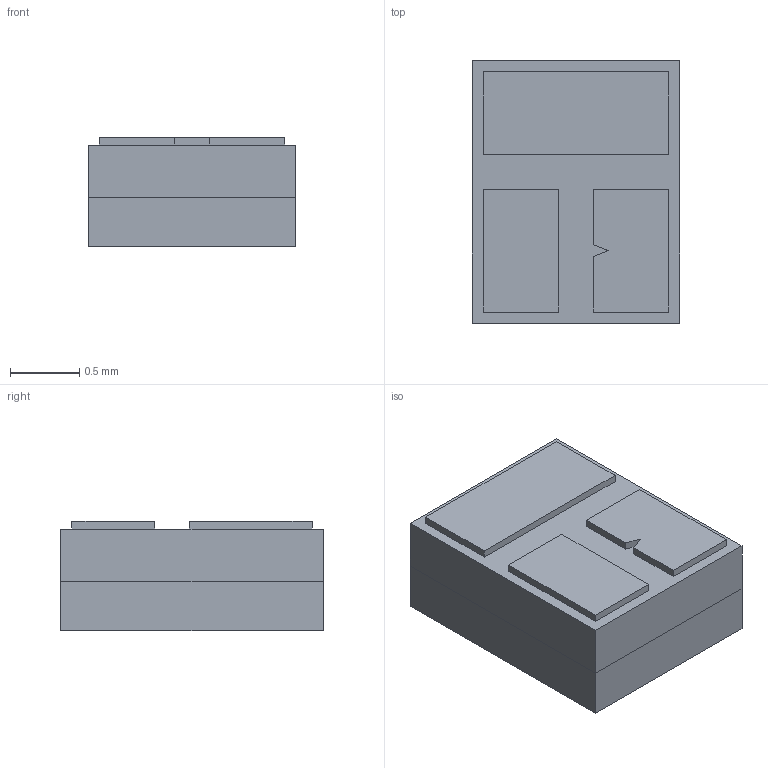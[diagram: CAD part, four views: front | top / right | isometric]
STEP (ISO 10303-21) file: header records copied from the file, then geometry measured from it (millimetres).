
FILE_DESCRIPTION (( 'STEP AP214' ), '1' );
FILE_NAME ('AQL1-C.STEP', '2025-05-12T03:51:21', ( '' ), ( '' ), 'SwSTEP 2.0', 'SolidWorks 2022', '' );
FILE_SCHEMA (( 'AUTOMOTIVE_DESIGN' ));
Length unit declared in the file: millimetre
Products named in the file (1): AQL1-C
Bounding box: 1.5 x 1.9 x 0.79 mm (x, y, z)
Volume: 2.1 mm3; surface area: 27.5 mm2
Topology: 8 solids, 8 shells, 67 faces, 153 edges, 102 vertices
Faces by surface type: plane 59, cylinder 8
Entity records: 2717 total; most frequent: CARTESIAN_POINT 323, ORIENTED_EDGE 306, DIRECTION 305, EDGE_CURVE 153, LINE 137, VECTOR 137, VERTEX_POINT 102, AXIS2_PLACEMENT_3D 84
